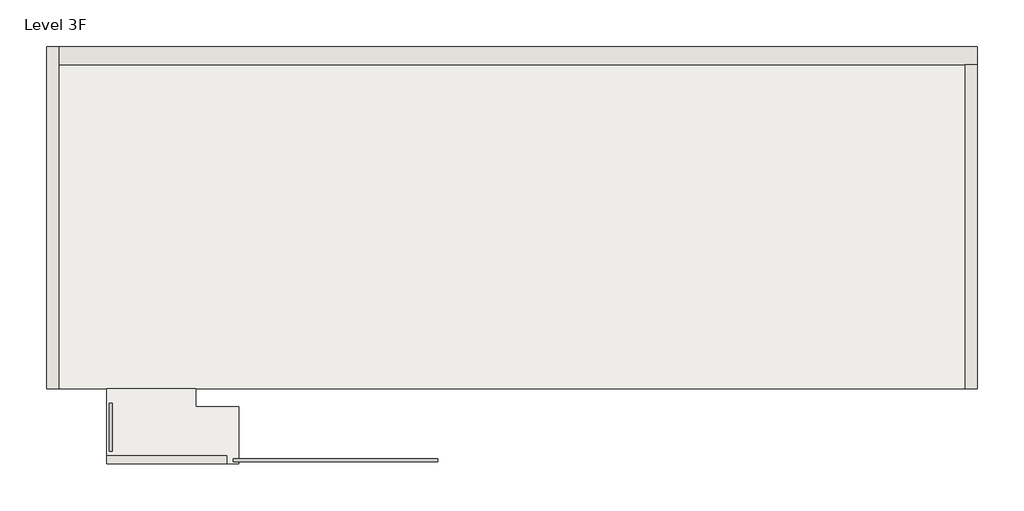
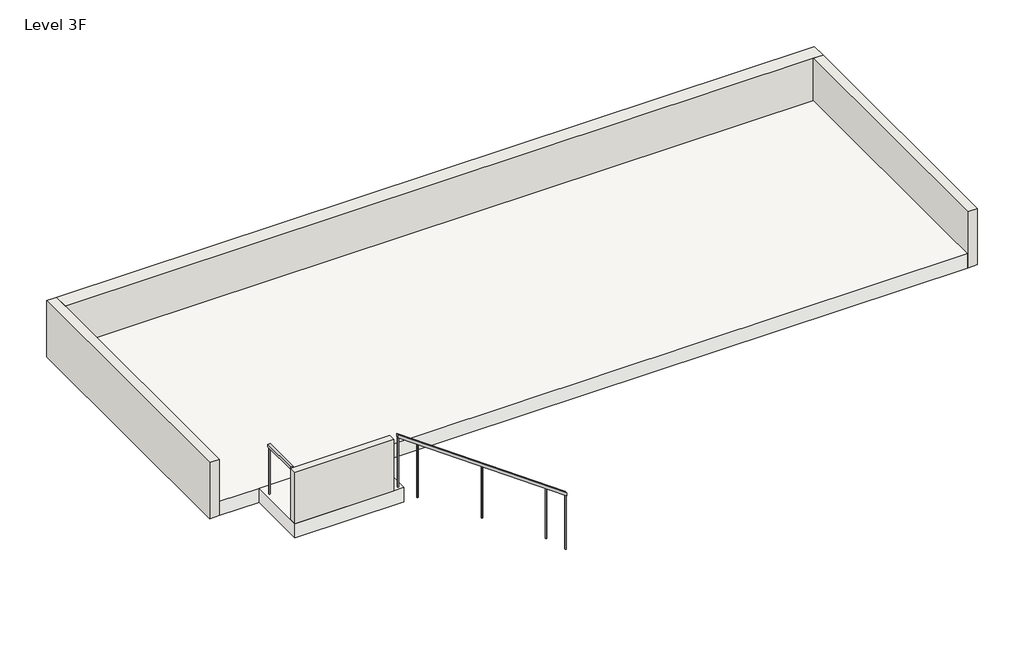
# One storey: 4 walls, 2 railings, 2 slabs.
"""IFC4 building model written with IfcOpenShell, lengths in millimetres."""

from ifc_helpers import new_model, si_unit, frame, origin, place, context, project, spatial, polyline, outline, extrude, faceted_brep, transform, mapped, element, save
from components import guardrail_rectangular_tn_stairs_2_3a758dc5, guardrail_rectangular_tn_stairs_3_ca9888c4

model = new_model("IFC4")

# Units and contexts
model_context = context("Model", 3, world=origin())
ifc_project = project(units=[si_unit("LENGTHUNIT", "METRE", prefix="MILLI")], contexts=[model_context])

# Site, building, storey
site = spatial("IfcSite", under=ifc_project)
building = spatial("IfcBuilding", under=site)
storey = spatial("IfcBuildingStorey", under=building, Name="Level 3F", Elevation=5100.0)

# Railings
placement = place(None, origin())
guardrail_rectangular_tn_stairs_2_shape = guardrail_rectangular_tn_stairs_2_3a758dc5(model_context)
element("IfcRailing", 1, ObjectType="Guardrail - Rectangular TN stairs 2", at=placement, inside=storey, context=model_context, shape_type="MappedRepresentation", body=[
    mapped(guardrail_rectangular_tn_stairs_2_shape, transform((0.0, 0.0, 0.0), x_axis=(1.0, 0.0, 0.0), y_axis=(0.0, 1.0, 0.0), z_axis=(0.0, 0.0, 1.0))),
])
guardrail_rectangular_tn_stairs_3_shape = guardrail_rectangular_tn_stairs_3_ca9888c4(model_context)
element("IfcRailing", 2, ObjectType="Guardrail - Rectangular TN stairs 3", at=placement, inside=storey, context=model_context, shape_type="MappedRepresentation", body=[
    mapped(guardrail_rectangular_tn_stairs_3_shape, transform((0.0, 0.0, 0.0), x_axis=(1.0, 0.0, 0.0), y_axis=(0.0, 1.0, 0.0), z_axis=(0.0, 0.0, 1.0))),
])

# Slabs
element("IfcSlab", 3, ObjectType="Generic 300mm", at=placement, inside=storey, context=model_context, shape_type="Brep", body=[
    faceted_brep([(7626.2760724, -7296.8966791, 4800.0), (7626.2760724, -12696.8966791, 4800.0), (-5191.991678, -12696.8966791, 4800.0), (-6673.7239276, -12696.8966791, 4800.0), (-7473.7239276, -12696.8966791, 4800.0), (-7473.7239276, -7296.8966791, 4800.0), (7626.2760724, -7296.8966791, 5100.0), (-7473.7239276, -7296.8966791, 5100.0), (-7473.7239276, -12696.8966791, 5100.0), (-6673.7239276, -12696.8966791, 5100.0), (-5191.991678, -12696.8966791, 5100.0), (7626.2760724, -12696.8966791, 5100.0)], [[[0, 1, 2, 3, 4, 5]], [[6, 7, 8, 9, 10, 11]], [[1, 0, 6, 11]], [[4, 3, 2, 1, 11, 10, 9, 8]], [[5, 4, 8, 7]], [[0, 5, 7, 6]]]),
])
element("IfcSlab", 4, ObjectType="Generic 300mm", at=placement, inside=storey, context=model_context, shape_type="Brep", body=[
    faceted_brep([(-6673.7239276, -13946.8966791, 4800.0), (-6673.7239276, -12696.8966791, 4800.0), (-5191.991678, -12696.8966791, 4800.0), (-5191.991678, -12996.8966791, 4800.0), (-4473.7239276, -12996.8966791, 4800.0), (-4473.7239276, -13946.8966791, 4800.0), (-6673.7239276, -13946.8966791, 5100.0), (-4673.7239276, -13946.8966791, 5100.0), (-4473.7239276, -13946.8966791, 5100.0), (-4473.7239276, -12996.8966791, 5100.0), (-5191.991678, -12996.8966791, 5100.0), (-5191.991678, -12696.8966791, 5100.0), (-6673.7239276, -12696.8966791, 5100.0), (-6673.7239276, -13808.3966791, 5100.0)], [[[0, 1, 2, 3, 4, 5]], [[6, 7, 8, 9, 10, 11, 12, 13]], [[1, 0, 6, 13, 12]], [[4, 3, 10, 9]], [[5, 4, 9, 8]], [[0, 5, 8, 7, 6]], [[2, 1, 12, 11]], [[3, 2, 11, 10]]]),
])

# Walls
element("IfcWall", 5, ObjectType="Generic - 200mm", at=placement, inside=storey, context=model_context, shape_type="Brep", body=[
    faceted_brep([(-7473.7239276, -12696.8966791, 4800.0), (-7473.7239276, -7296.8966791, 4800.0), (-7473.7239276, -6996.8966791, 4800.0), (-7473.7239276, -6996.8966791, 6000.0), (-7473.7239276, -7296.8966791, 6000.0), (-7473.7239276, -12696.8966791, 6000.0), (-7473.7239276, -12696.8966791, 5100.0), (-7673.7239276, -12696.8966791, 4800.0), (-7673.7239276, -12696.8966791, 6000.0), (-7673.7239276, -6996.8966791, 6000.0), (-7673.7239276, -6996.8966791, 4800.0)], [[[0, 1, 2, 3, 4, 5, 6]], [[7, 8, 9, 10]], [[2, 1, 0, 7, 10]], [[5, 4, 3, 9, 8]], [[0, 6, 5, 8, 7]], [[3, 2, 10, 9]]]),
])
element("IfcWall", 6, ObjectType="Generic - 200mm", at=placement, inside=storey, context=model_context, shape_type="Brep", body=[
    faceted_brep([(7826.2760724, -12696.8966791, 4800.0), (7826.2760724, -7296.8966791, 4800.0), (7826.2760724, -7296.8966791, 6000.0), (7826.2760724, -12696.8966791, 6000.0), (7626.2760724, -12696.8966791, 4800.0), (7626.2760724, -12696.8966791, 5100.0), (7626.2760724, -12696.8966791, 6000.0), (7626.2760724, -7296.8966791, 6000.0), (7626.2760724, -7296.8966791, 5100.0), (7626.2760724, -7296.8966791, 4800.0)], [[[0, 1, 2, 3]], [[4, 5, 6, 7, 8, 9]], [[1, 0, 4, 9]], [[3, 2, 7, 6]], [[2, 1, 9, 8, 7]], [[0, 3, 6, 5, 4]]]),
])
element("IfcWall", 7, ObjectType="Generic - 300mm", at=placement, inside=storey, context=model_context, shape_type="Brep", body=[
    faceted_brep([(-7473.7239276, -7296.8966791, 4800.0), (7626.2760724, -7296.8966791, 4800.0), (7826.2760724, -7296.8966791, 4800.0), (7826.2760724, -7296.8966791, 6000.0), (7626.2760724, -7296.8966791, 6000.0), (-7473.7239276, -7296.8966791, 6000.0), (-7473.7239276, -7296.8966791, 5100.0), (-7473.7239276, -6996.8966791, 4800.0), (-7473.7239276, -6996.8966791, 6000.0), (7826.2760724, -6996.8966791, 6000.0), (7826.2760724, -6996.8966791, 4800.0)], [[[0, 1, 2, 3, 4, 5, 6]], [[7, 8, 9, 10]], [[2, 1, 0, 7, 10]], [[5, 4, 3, 9, 8]], [[0, 6, 5, 8, 7]], [[3, 2, 10, 9]]]),
])
element("IfcWall", 8, ObjectType="Interior - 138mm Partition (1-hr)", at=placement, inside=storey, context=model_context, shape_type="SweptSolid", body=[
    extrude(outline(polyline([(-4673.7239276, -13946.8966791), (-6673.7239276, -13946.8966791), (-6673.7239276, -13808.3966791), (-4673.7239276, -13808.3966791), (-4673.7239276, -13946.8966791)])), frame((0.0, 0.0, 5100.0), z_axis=(0.0, 0.0, 1.0), x_axis=(1.0, 0.0, 0.0)), (0.0, 0.0, 1.0), 1100.0),
])

save(model, "model.ifc")
